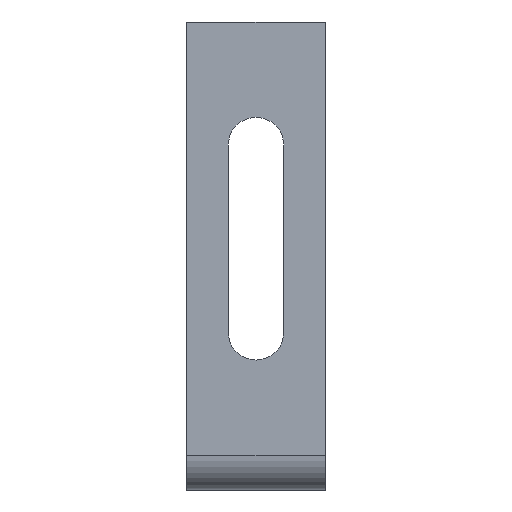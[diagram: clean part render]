
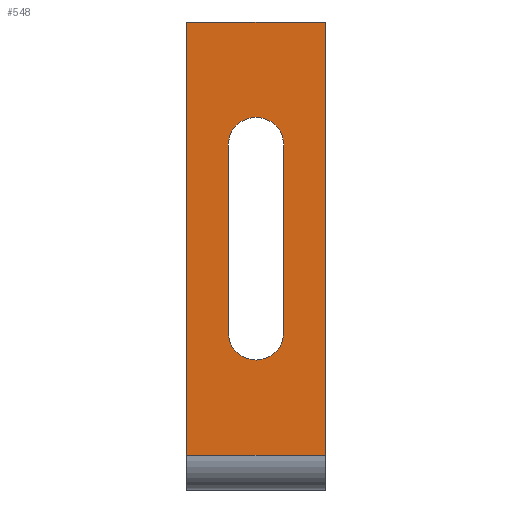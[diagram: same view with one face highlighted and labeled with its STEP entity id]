
A CAD part, front view. The second image highlights one B-rep face of the part: STEP entity #548.
In plain terms, the highlighted planar face has unit normal (0, -1, 0).
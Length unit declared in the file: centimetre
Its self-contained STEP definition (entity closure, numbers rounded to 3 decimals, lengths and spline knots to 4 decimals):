
#18=FACE_BOUND('',#116,.T.);
#28=CIRCLE('',#578,0.16);
#30=CIRCLE('',#582,0.16);
#80=FACE_OUTER_BOUND('',#115,.T.);
#115=EDGE_LOOP('',(#471,#472,#473,#474));
#116=EDGE_LOOP('',(#475,#476,#477,#478));
#135=LINE('',#811,#189);
#139=LINE('',#823,#193);
#159=LINE('',#884,#213);
#164=LINE('',#897,#218);
#171=LINE('',#915,#225);
#173=LINE('',#918,#227);
#189=VECTOR('',#649,1.);
#193=VECTOR('',#661,1.);
#213=VECTOR('',#727,1.);
#218=VECTOR('',#738,0.14);
#225=VECTOR('',#757,1.);
#227=VECTOR('',#761,1.);
#243=VERTEX_POINT('',#808);
#244=VERTEX_POINT('',#810);
#246=VERTEX_POINT('',#816);
#248=VERTEX_POINT('',#822);
#265=VERTEX_POINT('',#882);
#266=VERTEX_POINT('',#883);
#271=VERTEX_POINT('',#895);
#276=VERTEX_POINT('',#914);
#291=EDGE_CURVE('',#244,#243,#135,.T.);
#294=EDGE_CURVE('',#246,#244,#28,.T.);
#297=EDGE_CURVE('',#248,#246,#139,.T.);
#300=EDGE_CURVE('',#243,#248,#30,.T.);
#327=EDGE_CURVE('',#265,#266,#159,.T.);
#334=EDGE_CURVE('',#266,#271,#164,.T.);
#343=EDGE_CURVE('',#276,#265,#171,.T.);
#345=EDGE_CURVE('',#271,#276,#173,.T.);
#471=ORIENTED_EDGE('',*,*,#327,.T.);
#472=ORIENTED_EDGE('',*,*,#334,.T.);
#473=ORIENTED_EDGE('',*,*,#345,.T.);
#474=ORIENTED_EDGE('',*,*,#343,.T.);
#475=ORIENTED_EDGE('',*,*,#297,.T.);
#476=ORIENTED_EDGE('',*,*,#294,.T.);
#477=ORIENTED_EDGE('',*,*,#291,.T.);
#478=ORIENTED_EDGE('',*,*,#300,.T.);
#516=PLANE('',#614);
#548=ADVANCED_FACE('',(#80,#18),#516,.T.);
#578=AXIS2_PLACEMENT_3D('',#817,#655,#656);
#582=AXIS2_PLACEMENT_3D('',#827,#667,#668);
#614=AXIS2_PLACEMENT_3D('',#921,#765,#766);
#649=DIRECTION('',(0.,0.,-1.));
#655=DIRECTION('center_axis',(0.,1.,0.));
#656=DIRECTION('ref_axis',(-1.,0.,0.));
#661=DIRECTION('',(0.,0.,1.));
#667=DIRECTION('center_axis',(0.,1.,0.));
#668=DIRECTION('ref_axis',(1.,0.,0.));
#727=DIRECTION('',(1.,0.,0.));
#738=DIRECTION('',(0.,0.,1.));
#757=DIRECTION('',(0.,0.,-1.));
#761=DIRECTION('',(-1.,0.,0.));
#765=DIRECTION('center_axis',(0.,-1.,0.));
#766=DIRECTION('ref_axis',(-1.,0.,0.));
#808=CARTESIAN_POINT('',(0.16,-1.82,0.91));
#810=CARTESIAN_POINT('',(0.16,-1.82,1.99));
#811=CARTESIAN_POINT('',(0.16,-1.82,1.665));
#816=CARTESIAN_POINT('',(-0.16,-1.82,1.99));
#817=CARTESIAN_POINT('Origin',(0.,-1.82,1.99));
#822=CARTESIAN_POINT('',(-0.16,-1.82,0.91));
#823=CARTESIAN_POINT('',(-0.16,-1.82,1.125));
#827=CARTESIAN_POINT('Origin',(0.,-1.82,0.91));
#882=CARTESIAN_POINT('',(-0.4,-1.82,0.2));
#883=CARTESIAN_POINT('',(0.4,-1.82,0.2));
#884=CARTESIAN_POINT('',(0.,-1.82,0.2));
#895=CARTESIAN_POINT('',(0.4,-1.82,2.7));
#897=CARTESIAN_POINT('',(0.4,-1.82,-0.2398));
#914=CARTESIAN_POINT('',(-0.4,-1.82,2.7));
#915=CARTESIAN_POINT('',(-0.4,-1.82,0.2));
#918=CARTESIAN_POINT('',(-0.4,-1.82,2.7));
#921=CARTESIAN_POINT('Origin',(0.,-1.82,1.34));
